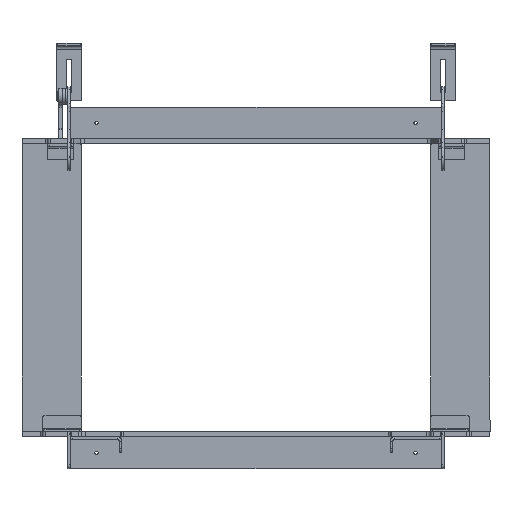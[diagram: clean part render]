
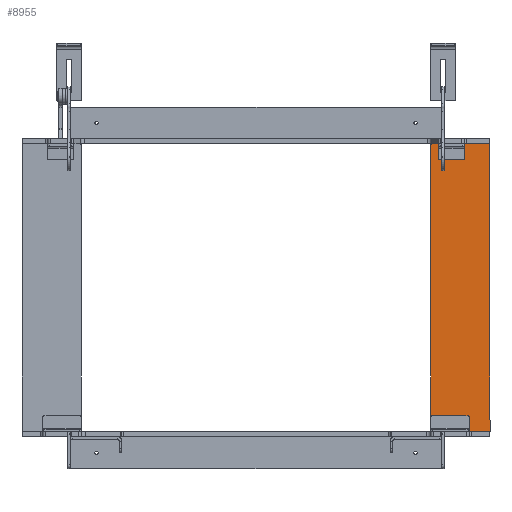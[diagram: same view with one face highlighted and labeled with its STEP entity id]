
A CAD part, front view. The second image highlights one B-rep face of the part: STEP entity #8955.
In plain terms, the highlighted planar face has unit normal (0, -1, 0) as drawn and (0, 0, -1) by its records, which use the part's own axes.
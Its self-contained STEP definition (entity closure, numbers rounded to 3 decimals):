
#461=PLANE('',#9615);
#777=FACE_OUTER_BOUND('',#1301,.T.);
#1301=EDGE_LOOP('',(#6746,#6747,#6748,#6749,#6750,#6751,#6752,#6753));
#1986=LINE('',#13767,#2805);
#1989=LINE('',#13773,#2808);
#1990=LINE('',#13777,#2809);
#1991=LINE('',#13781,#2810);
#2805=VECTOR('',#11090,91.);
#2808=VECTOR('',#11095,450.);
#2809=VECTOR('',#11098,91.);
#2810=VECTOR('',#11101,450.);
#3512=CIRCLE('',#9613,1.);
#3513=CIRCLE('',#9616,1.);
#3514=CIRCLE('',#9617,1.);
#3515=CIRCLE('',#9618,1.);
#4065=VERTEX_POINT('',#13760);
#4066=VERTEX_POINT('',#13762);
#4067=VERTEX_POINT('',#13766);
#4069=VERTEX_POINT('',#13772);
#4070=VERTEX_POINT('',#13774);
#4071=VERTEX_POINT('',#13776);
#4072=VERTEX_POINT('',#13778);
#4073=VERTEX_POINT('',#13780);
#5050=EDGE_CURVE('',#4065,#4066,#3512,.T.);
#5052=EDGE_CURVE('',#4067,#4066,#1986,.T.);
#5055=EDGE_CURVE('',#4065,#4069,#1989,.T.);
#5056=EDGE_CURVE('',#4070,#4069,#3513,.T.);
#5057=EDGE_CURVE('',#4070,#4071,#1990,.T.);
#5058=EDGE_CURVE('',#4072,#4071,#3514,.T.);
#5059=EDGE_CURVE('',#4072,#4073,#1991,.T.);
#5060=EDGE_CURVE('',#4067,#4073,#3515,.T.);
#6746=ORIENTED_EDGE('',*,*,#5050,.F.);
#6747=ORIENTED_EDGE('',*,*,#5055,.T.);
#6748=ORIENTED_EDGE('',*,*,#5056,.F.);
#6749=ORIENTED_EDGE('',*,*,#5057,.T.);
#6750=ORIENTED_EDGE('',*,*,#5058,.F.);
#6751=ORIENTED_EDGE('',*,*,#5059,.T.);
#6752=ORIENTED_EDGE('',*,*,#5060,.F.);
#6753=ORIENTED_EDGE('',*,*,#5052,.T.);
#8955=ADVANCED_FACE('',(#777),#461,.F.);
#9613=AXIS2_PLACEMENT_3D('',#13763,#11085,#11086);
#9615=AXIS2_PLACEMENT_3D('',#13771,#11093,#11094);
#9616=AXIS2_PLACEMENT_3D('',#13775,#11096,#11097);
#9617=AXIS2_PLACEMENT_3D('',#13779,#11099,#11100);
#9618=AXIS2_PLACEMENT_3D('',#13782,#11102,#11103);
#11085=DIRECTION('center_axis',(0.,0.,1.));
#11086=DIRECTION('ref_axis',(0.707,-0.707,0.));
#11090=DIRECTION('',(0.,-1.,0.));
#11093=DIRECTION('center_axis',(0.,0.,1.));
#11094=DIRECTION('ref_axis',(1.,0.,0.));
#11095=DIRECTION('',(-1.,0.,0.));
#11096=DIRECTION('center_axis',(0.,0.,1.));
#11097=DIRECTION('ref_axis',(-0.707,-0.707,0.));
#11098=DIRECTION('',(0.,1.,0.));
#11099=DIRECTION('center_axis',(0.,0.,1.));
#11100=DIRECTION('ref_axis',(-0.707,0.707,0.));
#11101=DIRECTION('',(1.,0.,0.));
#11102=DIRECTION('center_axis',(0.,0.,1.));
#11103=DIRECTION('ref_axis',(0.707,0.707,0.));
#13760=CARTESIAN_POINT('',(451.,0.,0.));
#13762=CARTESIAN_POINT('',(452.,1.,0.));
#13763=CARTESIAN_POINT('Origin',(451.,1.,0.));
#13766=CARTESIAN_POINT('',(452.,92.,0.));
#13767=CARTESIAN_POINT('',(452.,93.,0.));
#13771=CARTESIAN_POINT('Origin',(226.,46.5,0.));
#13772=CARTESIAN_POINT('',(1.,0.,0.));
#13773=CARTESIAN_POINT('',(452.,0.,0.));
#13774=CARTESIAN_POINT('',(0.,1.,0.));
#13775=CARTESIAN_POINT('Origin',(1.,1.,0.));
#13776=CARTESIAN_POINT('',(0.,92.,0.));
#13777=CARTESIAN_POINT('',(0.,0.,0.));
#13778=CARTESIAN_POINT('',(1.,93.,0.));
#13779=CARTESIAN_POINT('Origin',(1.,92.,0.));
#13780=CARTESIAN_POINT('',(451.,93.,0.));
#13781=CARTESIAN_POINT('',(0.,93.,0.));
#13782=CARTESIAN_POINT('Origin',(451.,92.,0.));
